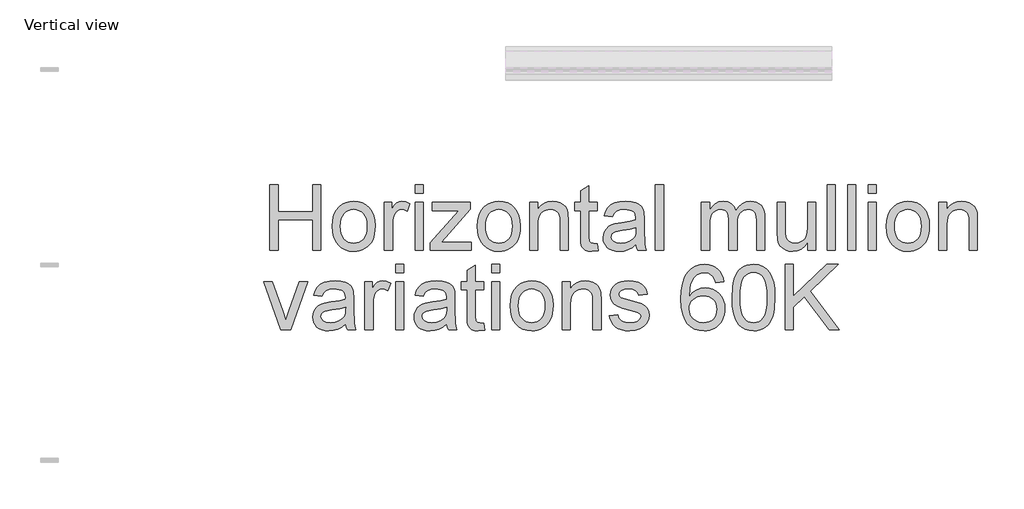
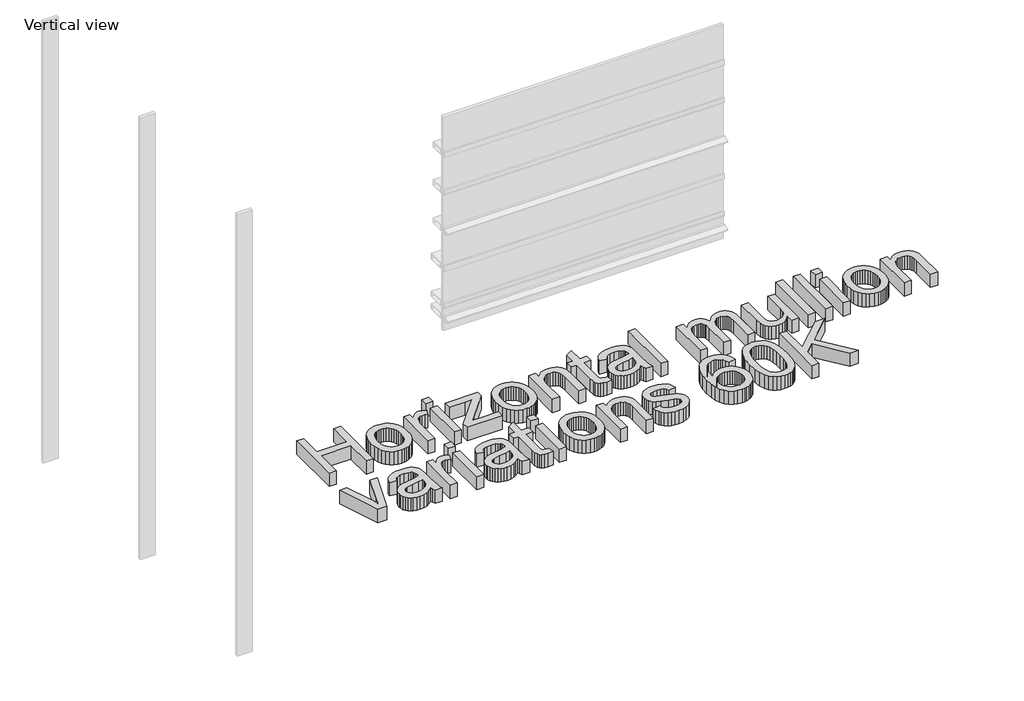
# One storey, part 6 of 8: 1 proxy.
"""IFC4 building model written with IfcOpenShell, lengths in millimetres."""

from ifc_helpers import new_model, si_unit, origin, origin_with_axes, place, context, project, spatial, polyline, outline, extrude, element, save

model = new_model("IFC4")

# Units and contexts
model_context = context("Model", 3, world=origin())
ifc_project = project(units=[si_unit("LENGTHUNIT", "METRE", prefix="MILLI")], contexts=[model_context])

# Site, building, storey
site = spatial("IfcSite", under=ifc_project)
building = spatial("IfcBuilding", under=site)
storey = spatial("IfcBuildingStorey", under=building, Name="Vertical view", Elevation=0.0)

# Proxy
placement = place(None, origin())
element("IfcBuildingElementProxy", 1, Name="600mm Arial", ObjectType="600mm Arial", at=placement, inside=storey, context=model_context, shape_type="SweptSolid", body=[
    extrude(outline(polyline([(1579.7688951, -5479.6499524), (1579.7688951, -4876.9120915), (1655.1111277, -4876.9120915), (1655.1111277, -5121.7743475), (1975.3156163, -5121.7743475), (1975.3156163, -4876.9120915), (2050.6578489, -4876.9120915), (2050.6578489, -5479.6499524), (1975.3156163, -5479.6499524), (1975.3156163, -5197.1165801), (1655.1111277, -5197.1165801), (1655.1111277, -5479.6499524), (1579.7688951, -5479.6499524)])), origin_with_axes(), (0.0, 0.0, 1.0), 150.0),
    extrude(outline(polyline([(2154.2534187, -5258.3321441), (2158.3277118, -5201.0069322), (2170.5505911, -5151.6095773), (2190.9220566, -5110.1400794), (2219.4421083, -5076.5984385), (2248.155298, -5055.1601152), (2279.8483319, -5039.8470272), (2314.5212099, -5030.6591744), (2352.1739321, -5027.5965567), (2393.7399991, -5031.3259605), (2431.3237434, -5042.5141717), (2464.9251651, -5061.1611903), (2494.5442643, -5087.2670164), (2518.7187099, -5119.9487331), (2535.986171, -5158.3234237), (2546.3466477, -5202.3910882), (2549.80014, -5252.1517266), (2548.2734297, -5292.4807903), (2543.6932988, -5328.2665114), (2536.0597474, -5359.5088898), (2525.3727755, -5386.2079256), (2511.7657402, -5409.2695282), (2495.3719988, -5429.599607), (2476.1915512, -5447.1981619), (2454.2243976, -5462.0651931), (2430.3258635, -5473.8788036), (2405.3512745, -5482.3170969), (2379.3006308, -5487.3800728), (2352.1739321, -5489.0677315), (2310.0008599, -5485.3521233), (2272.0676277, -5474.2052989), (2238.3742355, -5455.6272581), (2208.9206832, -5429.6180011), (2185.003755, -5396.6189861), (2167.9202349, -5357.0716716), (2157.6701228, -5310.9760576), (2154.2534187, -5258.3321441)]), holes=[polyline([(2229.5956514, -5258.1849913), (2231.7753522, -5294.729469), (2238.3144546, -5326.3719191), (2249.2129587, -5353.1123417), (2264.4708645, -5374.9507366), (2283.0305111, -5391.9146951), (2303.834238, -5404.0318083), (2326.882045, -5411.3020762), (2352.1739321, -5413.7254989), (2377.3370606, -5411.2882807), (2400.2928971, -5403.976626), (2421.0414416, -5391.7905349), (2439.5826942, -5374.7300074), (2454.8405999, -5352.6754818), (2465.7391041, -5325.5073964), (2472.2782065, -5293.2257514), (2474.4579073, -5255.8305466), (2472.2644109, -5220.4448971), (2465.6839218, -5189.6301815), (2454.7164398, -5163.3863997), (2439.361965, -5141.7135517), (2420.7517346, -5124.7495931), (2400.0169856, -5112.6324799), (2377.1577181, -5105.362212), (2352.1739321, -5102.9387894), (2326.882045, -5105.353015), (2303.834238, -5112.5956917), (2283.0305111, -5124.6668197), (2264.4708645, -5141.5663989), (2249.2129587, -5163.3404144), (2238.3144546, -5190.0348517), (2231.7753522, -5221.6497107), (2229.5956514, -5258.1849913)])]), origin_with_axes(), (0.0, 0.0, 1.0), 150.0),
    extrude(outline(polyline([(2634.5601516, -5479.6499524), (2634.5601516, -5037.0143358), (2700.4846052, -5037.0143358), (2700.4846052, -5102.497331), (2724.8383933, -5064.5319091), (2747.279195, -5042.1646838), (2769.7935731, -5031.2385885), (2794.3680903, -5027.5965567), (2831.8920539, -5033.4090923), (2870.0046286, -5050.8466988), (2844.8415001, -5118.3898332), (2818.3539964, -5106.8015503), (2791.8664928, -5102.9387894), (2769.3705088, -5106.6543975), (2749.2657577, -5117.801222), (2733.0237677, -5135.5331341), (2722.1160665, -5159.0040054), (2712.9558048, -5201.0897057), (2709.9023843, -5247.0013787), (2709.9023843, -5479.6499524), (2634.5601516, -5479.6499524)])), origin_with_axes(), (0.0, 0.0, 1.0), 150.0),
    extrude(outline(polyline([(2917.0935239, -5479.6499524), (2917.0935239, -5037.0143358), (2992.4357565, -5037.0143358), (2992.4357565, -5479.6499524), (2917.0935239, -5479.6499524)])), origin_with_axes(), (0.0, 0.0, 1.0), 150.0),
    extrude(outline(polyline([(2917.0935239, -4952.2543241), (2917.0935239, -4876.9120915), (2992.4357565, -4876.9120915), (2992.4357565, -4952.2543241), (2917.0935239, -4952.2543241)])), origin_with_axes(), (0.0, 0.0, 1.0), 150.0),
    extrude(outline(polyline([(3058.3602101, -5479.6499524), (3058.3602101, -5408.7223038), (3318.3792043, -5112.3565684), (3241.4182909, -5112.3565684), (3077.1957682, -5112.3565684), (3077.1957682, -5037.0143358), (3425.6535941, -5037.0143358), (3425.6535941, -5101.025803), (3195.0651595, -5363.9878531), (3159.748488, -5404.3077198), (3246.8629444, -5404.3077198), (3435.0713731, -5404.3077198), (3435.0713731, -5479.6499524), (3058.3602101, -5479.6499524)])), origin_with_axes(), (0.0, 0.0, 1.0), 150.0),
    extrude(outline(polyline([(3491.5780476, -5258.3321441), (3495.6523407, -5201.0069322), (3507.87522, -5151.6095773), (3528.2466855, -5110.1400794), (3556.7667372, -5076.5984385), (3585.4799269, -5055.1601152), (3617.1729608, -5039.8470272), (3651.8458388, -5030.6591744), (3689.498561, -5027.5965567), (3731.0646279, -5031.3259605), (3768.6483723, -5042.5141717), (3802.249794, -5061.1611903), (3831.8688931, -5087.2670164), (3856.0433388, -5119.9487331), (3873.3107999, -5158.3234237), (3883.6712766, -5202.3910882), (3887.1247688, -5252.1517266), (3885.5980585, -5292.4807903), (3881.0179277, -5328.2665114), (3873.3843763, -5359.5088898), (3862.6974043, -5386.2079256), (3849.090369, -5409.2695282), (3832.6966276, -5429.599607), (3813.5161801, -5447.1981619), (3791.5490265, -5462.0651931), (3767.6504924, -5473.8788036), (3742.6759034, -5482.3170969), (3716.6252596, -5487.3800728), (3689.498561, -5489.0677315), (3647.3254888, -5485.3521233), (3609.3922566, -5474.2052989), (3575.6988643, -5455.6272581), (3546.2453121, -5429.6180011), (3522.3283839, -5396.6189861), (3505.2448637, -5357.0716716), (3494.9947516, -5310.9760576), (3491.5780476, -5258.3321441)]), holes=[polyline([(3566.9202802, -5258.1849913), (3569.099981, -5294.729469), (3575.6390835, -5326.3719191), (3586.5375876, -5353.1123417), (3601.7954934, -5374.9507366), (3620.35514, -5391.9146951), (3641.1588668, -5404.0318083), (3664.2066738, -5411.3020762), (3689.498561, -5413.7254989), (3714.6616895, -5411.2882807), (3737.617526, -5403.976626), (3758.3660705, -5391.7905349), (3776.9073231, -5374.7300074), (3792.1652288, -5352.6754818), (3803.0637329, -5325.5073964), (3809.6028354, -5293.2257514), (3811.7825362, -5255.8305466), (3809.5890398, -5220.4448971), (3803.0085506, -5189.6301815), (3792.0410686, -5163.3863997), (3776.6865939, -5141.7135517), (3758.0763634, -5124.7495931), (3737.3416145, -5112.6324799), (3714.482347, -5105.362212), (3689.498561, -5102.9387894), (3664.2066738, -5105.353015), (3641.1588668, -5112.5956917), (3620.35514, -5124.6668197), (3601.7954934, -5141.5663989), (3586.5375876, -5163.3404144), (3575.6390835, -5190.0348517), (3569.099981, -5221.6497107), (3566.9202802, -5258.1849913)])]), origin_with_axes(), (0.0, 0.0, 1.0), 150.0),
    extrude(outline(polyline([(3971.8847805, -5479.6499524), (3971.8847805, -5037.0143358), (4047.2270131, -5037.0143358), (4047.2270131, -5098.818511), (4073.4018171, -5067.658906), (4104.8373336, -5045.4020453), (4141.5335626, -5032.0479289), (4183.4905041, -5027.5965567), (4220.6281915, -5031.1834062), (4254.638882, -5041.9439546), (4283.0025838, -5058.5354325), (4303.1993054, -5079.6150709), (4316.9029097, -5105.1276872), (4325.7872599, -5135.0180993), (4329.7603854, -5207.8587344), (4329.7603854, -5479.6499524), (4254.4181528, -5479.6499524), (4254.4181528, -5218.0122775), (4252.247649, -5179.0535742), (4245.7361377, -5151.3520599), (4233.7247906, -5131.5048263), (4215.0547793, -5116.1089648), (4191.1240555, -5106.2313332), (4163.3305708, -5102.9387894), (4140.4529092, -5104.7873964), (4119.2031255, -5110.3332175), (4099.5812196, -5119.5762526), (4081.5871915, -5132.5165018), (4066.5546134, -5150.625493), (4055.8170577, -5175.3747542), (4049.3745243, -5206.7642854), (4047.2270131, -5244.7940867), (4047.2270131, -5479.6499524), (3971.8847805, -5479.6499524)])), origin_with_axes(), (0.0, 0.0, 1.0), 150.0),
    extrude(outline(polyline([(4593.4581996, -5416.8157076), (4602.8759786, -5481.8572444), (4546.516457, -5489.0677315), (4510.3536568, -5485.9407345), (4483.3879066, -5476.5597437), (4464.3316193, -5462.1019813), (4451.8972078, -5443.7446697), (4445.0546027, -5412.2171827), (4442.7737343, -5358.248894), (4442.7737343, -5112.3565684), (4386.2670599, -5112.3565684), (4386.2670599, -5037.0143358), (4442.7737343, -5037.0143358), (4442.7737343, -4929.4456404), (4518.1159669, -4885.1526482), (4518.1159669, -5037.0143358), (4593.4581996, -5037.0143358), (4593.4581996, -5112.3565684), (4518.1159669, -5112.3565684), (4518.1159669, -5356.041602), (4522.0890925, -5394.8899407), (4534.9649623, -5408.6487274), (4545.8358753, -5412.456306), (4560.6431256, -5413.7254989), (4593.4581996, -5416.8157076)])), origin_with_axes(), (0.0, 0.0, 1.0), 150.0),
    extrude(outline(polyline([(4951.3338045, -5423.143278), (4915.3365512, -5454.0085774), (4878.2724402, -5474.2052989), (4839.2953428, -5485.3521233), (4797.5591305, -5489.0677315), (4764.012891, -5486.8328484), (4734.596127, -5480.128199), (4709.3088384, -5468.9537834), (4688.1510251, -5453.3096016), (4671.444584, -5434.1889349), (4659.5114118, -5412.5850647), (4652.3515085, -5388.4979911), (4649.964874, -5361.927714), (4653.5701176, -5330.6945326), (4664.3858482, -5302.3308307), (4681.0692967, -5278.0506191), (4702.2776937, -5259.0679081), (4727.2016989, -5244.7205103), (4755.0319718, -5234.346238), (4820.2206614, -5223.0154726), (4897.2551512, -5211.0960959), (4950.8923461, -5197.1165801), (4951.3338045, -5180.3411611), (4946.1466683, -5146.7167468), (4939.6627482, -5134.2639412), (4930.5852599, -5124.7174035), (4914.8950928, -5115.1892598), (4895.7836232, -5108.3834429), (4847.2967762, -5102.9387894), (4802.4151728, -5106.562427), (4771.0716268, -5117.43334), (4749.6976829, -5137.538091), (4734.7248857, -5168.8632429), (4659.3826531, -5159.4454638), (4672.460858, -5118.2426804), (4691.9769979, -5085.8690648), (4719.7520885, -5061.1106065), (4757.6071458, -5042.7532949), (4803.9050949, -5031.3857413), (4857.0088609, -5027.5965567), (4907.9421231, -5030.9442829), (4948.3171721, -5040.9874614), (4978.7594072, -5056.0890173), (4999.8942278, -5074.6118757), (5013.9105318, -5097.5125299), (5022.9972171, -5125.7474731), (5026.6760371, -5191.6719266), (5026.6760371, -5285.408259), (5030.5020098, -5416.3006729), (5036.1673926, -5448.6558943), (5045.5115952, -5479.6499524), (4970.1693626, -5479.6499524), (4958.1028332, -5453.4567544), (4951.3338045, -5423.143278)]), holes=[polyline([(4951.3338045, -5272.4588127), (4900.7132419, -5285.0035888), (4829.7855933, -5295.561802), (4764.9647857, -5307.7754843), (4748.0973962, -5316.1264056), (4735.6078025, -5327.641112), (4727.8822806, -5341.4366868), (4725.3071066, -5356.6302132), (4730.9173071, -5379.0342267), (4747.7479083, -5397.3915383), (4775.4310285, -5409.6420087), (4813.5987855, -5413.7254989), (4854.0658049, -5409.2189444), (4889.8239349, -5395.6992811), (4918.8130361, -5375.7784711), (4938.9729694, -5352.0684765), (4947.9125019, -5327.641112), (4950.8923461, -5293.7959685), (4951.3338045, -5272.4588127)])]), origin_with_axes(), (0.0, 0.0, 1.0), 150.0),
    extrude(outline(polyline([(5130.2716069, -5479.6499524), (5130.2716069, -4876.9120915), (5205.6138395, -4876.9120915), (5205.6138395, -5479.6499524), (5130.2716069, -5479.6499524)])), origin_with_axes(), (0.0, 0.0, 1.0), 150.0),
    extrude(outline(polyline([(5554.0716654, -5479.6499524), (5554.0716654, -5037.0143358), (5629.413898, -5037.0143358), (5629.413898, -5109.8549709), (5652.0754289, -5076.3961034), (5681.2116829, -5050.1845113), (5715.8293786, -5033.2435454), (5754.9352347, -5027.5965567), (5796.836994, -5033.35391), (5814.6700737, -5040.5506015), (5830.4246201, -5050.6259696), (5855.5141722, -5078.2723016), (5871.9217092, -5115.1524716), (5899.3841001, -5076.8467589), (5930.709252, -5049.4855355), (5965.8971649, -5033.0688014), (6004.9478387, -5027.5965567), (6035.1095637, -5029.8728266), (6061.5832718, -5036.7016361), (6084.3689629, -5048.0829854), (6103.466637, -5064.0168743), (6118.5635943, -5084.6872439), (6129.3471353, -5110.2780352), (6135.8172599, -5140.7892481), (6137.9739681, -5176.2208828), (6137.9739681, -5479.6499524), (6062.6317355, -5479.6499524), (6062.6317355, -5208.5944984), (6060.884296, -5171.0153526), (6055.6419776, -5145.6866772), (6045.8195283, -5128.3410411), (6030.3316963, -5114.7110132), (6010.4108863, -5105.8818453), (5987.2895029, -5102.9387894), (5965.9385516, -5104.8241846), (5946.4729955, -5110.4803703), (5928.8928347, -5119.9073464), (5913.1980691, -5133.105113), (5900.2900095, -5150.4599461), (5891.069967, -5172.3581218), (5885.5379415, -5198.7996403), (5883.693933, -5229.7845013), (5883.693933, -5479.6499524), (5808.3517004, -5479.6499524), (5808.3517004, -5200.2067889), (5803.9922988, -5157.6060538), (5798.5430467, -5140.8858172), (5790.9140939, -5127.219001), (5780.8019375, -5116.5964084), (5767.9030751, -5109.0088423), (5752.2175065, -5104.4563026), (5733.7452318, -5102.9387894), (5704.7193424, -5106.9854913), (5677.9743213, -5119.1255971), (5655.9014016, -5139.0648013), (5640.8918162, -5166.5087981), (5632.2833775, -5204.5845846), (5629.413898, -5256.4191577), (5629.413898, -5479.6499524), (5554.0716654, -5479.6499524)])), origin_with_axes(), (0.0, 0.0, 1.0), 150.0),
    extrude(outline(polyline([(6533.5206893, -5479.6499524), (6533.5206893, -5403.5719558), (6506.2606335, -5440.9763577), (6474.5124173, -5467.6937876), (6438.2760408, -5483.7242455), (6397.5515039, -5489.0677315), (6360.8552749, -5485.3153351), (6326.6974316, -5474.0581461), (6298.0394242, -5457.1355743), (6277.8427027, -5436.3870298), (6264.249463, -5411.1871131), (6255.401901, -5380.9104249), (6250.987317, -5310.865693), (6250.987317, -5037.0143358), (6326.3295496, -5037.0143358), (6326.3295496, -5275.4018687), (6327.4699838, -5323.0793753), (6330.8912864, -5352.2156293), (6341.8725639, -5377.8386103), (6360.689728, -5397.3179619), (6386.0919798, -5409.6236146), (6416.8285205, -5413.7254989), (6449.3308947, -5409.5316441), (6479.7363416, -5396.9500799), (6504.8074996, -5377.1396345), (6521.3070071, -5351.2591361), (6530.4672688, -5315.8137059), (6533.5206893, -5267.3084648), (6533.5206893, -5037.0143358), (6608.8629219, -5037.0143358), (6608.8629219, -5479.6499524), (6533.5206893, -5479.6499524)])), origin_with_axes(), (0.0, 0.0, 1.0), 150.0),
    extrude(outline(polyline([(6712.4584918, -5479.6499524), (6712.4584918, -4876.9120915), (6787.8007244, -4876.9120915), (6787.8007244, -5479.6499524), (6712.4584918, -5479.6499524)])), origin_with_axes(), (0.0, 0.0, 1.0), 150.0),
    extrude(outline(polyline([(6900.8140733, -5479.6499524), (6900.8140733, -4876.9120915), (6976.1563059, -4876.9120915), (6976.1563059, -5479.6499524), (6900.8140733, -5479.6499524)])), origin_with_axes(), (0.0, 0.0, 1.0), 150.0),
    extrude(outline(polyline([(7089.1696548, -5479.6499524), (7089.1696548, -5037.0143358), (7164.5118874, -5037.0143358), (7164.5118874, -5479.6499524), (7089.1696548, -5479.6499524)])), origin_with_axes(), (0.0, 0.0, 1.0), 150.0),
    extrude(outline(polyline([(7089.1696548, -4952.2543241), (7089.1696548, -4876.9120915), (7164.5118874, -4876.9120915), (7164.5118874, -4952.2543241), (7089.1696548, -4952.2543241)])), origin_with_axes(), (0.0, 0.0, 1.0), 150.0),
    extrude(outline(polyline([(7258.6896782, -5258.3321441), (7262.7639713, -5201.0069322), (7274.9868506, -5151.6095773), (7295.3583161, -5110.1400794), (7323.8783678, -5076.5984385), (7352.5915575, -5055.1601152), (7384.2845914, -5039.8470272), (7418.9574694, -5030.6591744), (7456.6101916, -5027.5965567), (7498.1762586, -5031.3259605), (7535.7600029, -5042.5141717), (7569.3614246, -5061.1611903), (7598.9805238, -5087.2670164), (7623.1549694, -5119.9487331), (7640.4224305, -5158.3234237), (7650.7829072, -5202.3910882), (7654.2363994, -5252.1517266), (7652.7096891, -5292.4807903), (7648.1295583, -5328.2665114), (7640.4960069, -5359.5088898), (7629.8090349, -5386.2079256), (7616.2019997, -5409.2695282), (7599.8082582, -5429.599607), (7580.6278107, -5447.1981619), (7558.6606571, -5462.0651931), (7534.762123, -5473.8788036), (7509.787534, -5482.3170969), (7483.7368902, -5487.3800728), (7456.6101916, -5489.0677315), (7414.4371194, -5485.3521233), (7376.5038872, -5474.2052989), (7342.8104949, -5455.6272581), (7313.3569427, -5429.6180011), (7289.4400145, -5396.6189861), (7272.3564943, -5357.0716716), (7262.1063822, -5310.9760576), (7258.6896782, -5258.3321441)]), holes=[polyline([(7334.0319108, -5258.1849913), (7336.2116116, -5294.729469), (7342.7507141, -5326.3719191), (7353.6492182, -5353.1123417), (7368.907124, -5374.9507366), (7387.4667706, -5391.9146951), (7408.2704975, -5404.0318083), (7431.3183045, -5411.3020762), (7456.6101916, -5413.7254989), (7481.7733201, -5411.2882807), (7504.7291566, -5403.976626), (7525.4777011, -5391.7905349), (7544.0189537, -5374.7300074), (7559.2768594, -5352.6754818), (7570.1753635, -5325.5073964), (7576.714466, -5293.2257514), (7578.8941668, -5255.8305466), (7576.7006704, -5220.4448971), (7570.1201812, -5189.6301815), (7559.1526993, -5163.3863997), (7543.7982245, -5141.7135517), (7525.187994, -5124.7495931), (7504.4532451, -5112.6324799), (7481.5939776, -5105.362212), (7456.6101916, -5102.9387894), (7431.3183045, -5105.353015), (7408.2704975, -5112.5956917), (7387.4667706, -5124.6668197), (7368.907124, -5141.5663989), (7353.6492182, -5163.3404144), (7342.7507141, -5190.0348517), (7336.2116116, -5221.6497107), (7334.0319108, -5258.1849913)])]), origin_with_axes(), (0.0, 0.0, 1.0), 150.0),
    extrude(outline(polyline([(7738.9964111, -5479.6499524), (7738.9964111, -5037.0143358), (7814.3386437, -5037.0143358), (7814.3386437, -5098.818511), (7840.5134477, -5067.658906), (7871.9489642, -5045.4020453), (7908.6451932, -5032.0479289), (7950.6021347, -5027.5965567), (7987.7398222, -5031.1834062), (8021.7505126, -5041.9439546), (8050.1142144, -5058.5354325), (8070.310936, -5079.6150709), (8084.0145403, -5105.1276872), (8092.8988905, -5135.0180993), (8096.872016, -5207.8587344), (8096.872016, -5479.6499524), (8021.5297834, -5479.6499524), (8021.5297834, -5218.0122775), (8019.3592796, -5179.0535742), (8012.8477683, -5151.3520599), (8000.8364212, -5131.5048263), (7982.1664099, -5116.1089648), (7958.2356861, -5106.2313332), (7930.4422014, -5102.9387894), (7907.5645398, -5104.7873964), (7886.3147561, -5110.3332175), (7866.6928502, -5119.5762526), (7848.6988221, -5132.5165018), (7833.6662441, -5150.625493), (7822.9286883, -5175.3747542), (7816.4861549, -5206.7642854), (7814.3386437, -5244.7940867), (7814.3386437, -5479.6499524), (7738.9964111, -5479.6499524)])), origin_with_axes(), (0.0, 0.0, 1.0), 150.0),
    extrude(outline(polyline([(1678.949881, -6211.4988595), (1523.2622206, -5768.8632429), (1603.0190372, -5768.8632429), (1697.3439807, -6034.032585), (1725.7444708, -6123.2071806), (1753.5563496, -6039.0357802), (1848.4699043, -5768.8632429), (1928.2267209, -5768.8632429), (1774.4520469, -6211.4988595), (1678.949881, -6211.4988595)])), origin_with_axes(), (0.0, 0.0, 1.0), 150.0),
    extrude(outline(polyline([(2276.6845467, -6154.992185), (2240.6872935, -6185.8574844), (2203.6231825, -6206.054206), (2164.6460851, -6217.2010304), (2122.9098727, -6220.9166386), (2089.3636333, -6218.6817554), (2059.9468693, -6211.9771061), (2034.6595806, -6200.8026905), (2013.5017674, -6185.1585086), (1996.7953263, -6166.0378419), (1984.8621541, -6144.4339718), (1977.7022507, -6120.3468981), (1975.3156163, -6093.776621), (1978.9208598, -6062.5434396), (1989.7365905, -6034.1797378), (2006.420039, -6009.8995261), (2027.628436, -5990.9168152), (2052.5524412, -5976.5694174), (2080.3827141, -5966.1951451), (2145.5714037, -5954.8643797), (2222.6058934, -5942.945003), (2276.2430883, -5928.9654872), (2276.6845467, -5912.1900682), (2271.4974106, -5878.5656539), (2265.0134904, -5866.1128483), (2255.9360022, -5856.5663105), (2240.2458351, -5847.0381669), (2221.1343655, -5840.23235), (2172.6475185, -5834.7876964), (2127.7659151, -5838.4113341), (2096.4223691, -5849.282247), (2075.0484252, -5869.3869981), (2060.075628, -5900.71215), (1984.7333954, -5891.2943709), (1997.8116003, -5850.0915874), (2017.3277401, -5817.7179719), (2045.1028308, -5792.9595136), (2082.9578881, -5774.602202), (2129.2558372, -5763.2346484), (2182.3596032, -5759.4454638), (2233.2928654, -5762.79319), (2273.6679144, -5772.8363684), (2304.1101495, -5787.9379243), (2325.2449701, -5806.4607828), (2339.2612741, -5829.361437), (2348.3479594, -5857.5963801), (2352.0267793, -5923.5208337), (2352.0267793, -6017.257166), (2355.8527521, -6148.1495799), (2361.5181348, -6180.5048014), (2370.8623375, -6211.4988595), (2295.5201049, -6211.4988595), (2283.4535754, -6185.3056614), (2276.6845467, -6154.992185)]), holes=[polyline([(2276.6845467, -6004.3077198), (2226.0639842, -6016.8524958), (2155.1363355, -6027.4107091), (2090.315528, -6039.6243913), (2073.4481385, -6047.9753126), (2060.9585448, -6059.4900191), (2053.2330229, -6073.2855939), (2050.6578489, -6088.4791203), (2056.2680493, -6110.8831338), (2073.0986506, -6129.2404454), (2100.7817707, -6141.4909158), (2138.9495277, -6145.574406), (2179.4165472, -6141.0678515), (2215.1746771, -6127.5481882), (2244.1637784, -6107.6273782), (2264.3237117, -6083.9173836), (2273.2632442, -6059.4900191), (2276.2430883, -6025.6448755), (2276.6845467, -6004.3077198)])]), origin_with_axes(), (0.0, 0.0, 1.0), 150.0),
    extrude(outline(polyline([(2455.6223492, -6211.4988595), (2455.6223492, -5768.8632429), (2521.5468027, -5768.8632429), (2521.5468027, -5834.346238), (2545.9005908, -5796.3808161), (2568.3413925, -5774.0135908), (2590.8557706, -5763.0874956), (2615.4302879, -5759.4454638), (2652.9542514, -5765.2579993), (2691.0668261, -5782.6956059), (2665.9036976, -5850.2387402), (2639.416194, -5838.6504574), (2612.9286903, -5834.7876964), (2590.4327063, -5838.5033046), (2570.3279553, -5849.650129), (2554.0859652, -5867.3820412), (2543.178264, -5890.8529125), (2534.0180024, -5932.9386127), (2530.9645818, -5978.8502857), (2530.9645818, -6211.4988595), (2455.6223492, -6211.4988595)])), origin_with_axes(), (0.0, 0.0, 1.0), 150.0),
    extrude(outline(polyline([(2738.1557215, -6211.4988595), (2738.1557215, -5768.8632429), (2813.4979541, -5768.8632429), (2813.4979541, -6211.4988595), (2738.1557215, -6211.4988595)])), origin_with_axes(), (0.0, 0.0, 1.0), 150.0),
    extrude(outline(polyline([(2738.1557215, -5684.1032312), (2738.1557215, -5608.7609986), (2813.4979541, -5608.7609986), (2813.4979541, -5684.1032312), (2738.1557215, -5684.1032312)])), origin_with_axes(), (0.0, 0.0, 1.0), 150.0),
    extrude(outline(polyline([(3209.0446753, -6154.992185), (3173.0474221, -6185.8574844), (3135.9833111, -6206.054206), (3097.0062137, -6217.2010304), (3055.2700013, -6220.9166386), (3021.7237619, -6218.6817554), (2992.3069979, -6211.9771061), (2967.0197092, -6200.8026905), (2945.861896, -6185.1585086), (2929.1554549, -6166.0378419), (2917.2222826, -6144.4339718), (2910.0623793, -6120.3468981), (2907.6757449, -6093.776621), (2911.2809884, -6062.5434396), (2922.0967191, -6034.1797378), (2938.7801676, -6009.8995261), (2959.9885646, -5990.9168152), (2984.9125697, -5976.5694174), (3012.7428427, -5966.1951451), (3077.9315322, -5954.8643797), (3154.966022, -5942.945003), (3208.6032169, -5928.9654872), (3209.0446753, -5912.1900682), (3203.8575392, -5878.5656539), (3197.373619, -5866.1128483), (3188.2961308, -5856.5663105), (3172.6059637, -5847.0381669), (3153.494494, -5840.23235), (3105.0076471, -5834.7876964), (3060.1260437, -5838.4113341), (3028.7824977, -5849.282247), (3007.4085538, -5869.3869981), (2992.4357565, -5900.71215), (2917.0935239, -5891.2943709), (2930.1717289, -5850.0915874), (2949.6878687, -5817.7179719), (2977.4629593, -5792.9595136), (3015.3180166, -5774.602202), (3061.6159657, -5763.2346484), (3114.7197317, -5759.4454638), (3165.652994, -5762.79319), (3206.0280429, -5772.8363684), (3236.470278, -5787.9379243), (3257.6050987, -5806.4607828), (3271.6214027, -5829.361437), (3280.708088, -5857.5963801), (3284.3869079, -5923.5208337), (3284.3869079, -6017.257166), (3288.2128807, -6148.1495799), (3293.8782634, -6180.5048014), (3303.2224661, -6211.4988595), (3227.8802335, -6211.4988595), (3215.813704, -6185.3056614), (3209.0446753, -6154.992185)]), holes=[polyline([(3209.0446753, -6004.3077198), (3158.4241128, -6016.8524958), (3087.4964641, -6027.4107091), (3022.6756566, -6039.6243913), (3005.8082671, -6047.9753126), (2993.3186733, -6059.4900191), (2985.5931514, -6073.2855939), (2983.0179775, -6088.4791203), (2988.6281779, -6110.8831338), (3005.4587792, -6129.2404454), (3033.1418993, -6141.4909158), (3071.3096563, -6145.574406), (3111.7766758, -6141.0678515), (3147.5348057, -6127.5481882), (3176.5239069, -6107.6273782), (3196.6838403, -6083.9173836), (3205.6233728, -6059.4900191), (3208.6032169, -6025.6448755), (3209.0446753, -6004.3077198)])]), origin_with_axes(), (0.0, 0.0, 1.0), 150.0),
    extrude(outline(polyline([(3548.0847221, -6148.6646147), (3557.5025011, -6213.7061515), (3501.1429795, -6220.9166386), (3464.9801794, -6217.7896416), (3438.0144291, -6208.4086507), (3418.9581418, -6193.9508883), (3406.5237303, -6175.5935768), (3399.6811252, -6144.0660898), (3397.4002568, -6090.0978011), (3397.4002568, -5844.2054755), (3340.8935824, -5844.2054755), (3340.8935824, -5768.8632429), (3397.4002568, -5768.8632429), (3397.4002568, -5661.2945475), (3472.7424895, -5617.0015553), (3472.7424895, -5768.8632429), (3548.0847221, -5768.8632429), (3548.0847221, -5844.2054755), (3472.7424895, -5844.2054755), (3472.7424895, -6087.8905091), (3476.715615, -6126.7388478), (3489.5914848, -6140.4976344), (3500.4623978, -6144.3052131), (3515.2696481, -6145.574406), (3548.0847221, -6148.6646147)])), origin_with_axes(), (0.0, 0.0, 1.0), 150.0),
    extrude(outline(polyline([(3623.4269547, -6211.4988595), (3623.4269547, -5768.8632429), (3698.7691873, -5768.8632429), (3698.7691873, -6211.4988595), (3623.4269547, -6211.4988595)])), origin_with_axes(), (0.0, 0.0, 1.0), 150.0),
    extrude(outline(polyline([(3623.4269547, -5684.1032312), (3623.4269547, -5608.7609986), (3698.7691873, -5608.7609986), (3698.7691873, -5684.1032312), (3623.4269547, -5684.1032312)])), origin_with_axes(), (0.0, 0.0, 1.0), 150.0),
    extrude(outline(polyline([(3792.9469781, -5990.1810512), (3797.0212712, -5932.8558393), (3809.2441504, -5883.4584844), (3829.6156159, -5841.9889865), (3858.1356676, -5808.4473456), (3886.8488573, -5787.0090223), (3918.5418912, -5771.6959343), (3953.2147693, -5762.5080814), (3990.8674915, -5759.4454638), (4032.4335584, -5763.1748675), (4070.0173027, -5774.3630787), (4103.6187245, -5793.0100974), (4133.2378236, -5819.1159234), (4157.4122692, -5851.7976402), (4174.6797303, -5890.1723308), (4185.040207, -5934.2399953), (4188.4936993, -5984.0006337), (4186.966989, -6024.3296974), (4182.3868581, -6060.1154185), (4174.7533067, -6091.3577969), (4164.0663348, -6118.0568327), (4150.4592995, -6141.1184353), (4134.0655581, -6161.448514), (4114.8851106, -6179.047069), (4092.9179569, -6193.9141001), (4069.0194228, -6205.7277107), (4044.0448339, -6214.166004), (4017.9941901, -6219.2289799), (3990.8674915, -6220.9166386), (3948.6944192, -6217.2010304), (3910.761187, -6206.054206), (3877.0677948, -6187.4761652), (3847.6142425, -6161.4669081), (3823.6973143, -6128.4678932), (3806.6137942, -6088.9205787), (3796.3636821, -6042.8249647), (3792.9469781, -5990.1810512)]), holes=[polyline([(3868.2892107, -5990.0338984), (3870.4689115, -6026.5783761), (3877.008014, -6058.2208262), (3887.9065181, -6084.9612487), (3903.1644238, -6106.7996437), (3921.7240705, -6123.7636022), (3942.5277973, -6135.8807154), (3965.5756043, -6143.1509833), (3990.8674915, -6145.574406), (4016.0306199, -6143.1371877), (4038.9864564, -6135.8255331), (4059.735001, -6123.639442), (4078.2762535, -6106.5789145), (4093.5341593, -6084.5243889), (4104.4326634, -6057.3563035), (4110.9717658, -6025.0746584), (4113.1514667, -5987.6794536), (4110.9579703, -5952.2938042), (4104.3774811, -5921.4790886), (4093.4099991, -5895.2353068), (4078.0555243, -5873.5624587), (4059.4452939, -5856.5985002), (4038.7105449, -5844.481387), (4015.8512775, -5837.2111191), (3990.8674915, -5834.7876964), (3965.5756043, -5837.201922), (3942.5277973, -5844.4445988), (3921.7240705, -5856.5157268), (3903.1644238, -5873.4153059), (3887.9065181, -5895.1893215), (3877.008014, -5921.8837588), (3870.4689115, -5953.4986177), (3868.2892107, -5990.0338984)])]), origin_with_axes(), (0.0, 0.0, 1.0), 150.0),
    extrude(outline(polyline([(4273.253711, -6211.4988595), (4273.253711, -5768.8632429), (4348.5959436, -5768.8632429), (4348.5959436, -5830.6674181), (4374.7707475, -5799.5078131), (4406.206264, -5777.2509524), (4442.902493, -5763.896836), (4484.8594346, -5759.4454638), (4521.997122, -5763.0323133), (4556.0078124, -5773.7928616), (4584.3715143, -5790.3843396), (4604.5682358, -5811.4639779), (4618.2718401, -5836.9765943), (4627.1561903, -5866.8670064), (4631.1293159, -5939.7076415), (4631.1293159, -6211.4988595), (4555.7870833, -6211.4988595), (4555.7870833, -5949.8611845), (4553.6165795, -5910.9024812), (4547.1050682, -5883.200967), (4535.093721, -5863.3537334), (4516.4237098, -5847.9578719), (4492.492986, -5838.0802403), (4464.6995012, -5834.7876964), (4441.8218397, -5836.6363035), (4420.5720559, -5842.1821245), (4400.95015, -5851.4251597), (4382.9561219, -5864.3654088), (4367.9235439, -5882.4744001), (4357.1859882, -5907.2236613), (4350.7434547, -5938.6131925), (4348.5959436, -5976.6429938), (4348.5959436, -6211.4988595), (4273.253711, -6211.4988595)])), origin_with_axes(), (0.0, 0.0, 1.0), 150.0),
    extrude(outline(polyline([(4706.4715485, -6079.6499524), (4781.8137811, -6070.2321733), (4786.3663208, -6087.4122625), (4793.6963695, -6102.4586361), (4803.8039274, -6115.3712942), (4816.6889942, -6126.1502366), (4832.3883584, -6134.6483107), (4850.938808, -6140.7183636), (4896.5929636, -6145.574406), (4941.6952962, -6141.1230338), (4959.2248733, -6135.5588186), (4973.4067242, -6127.7689174), (4992.1687059, -6108.4183244), (4996.8592014, -6097.5841997), (4998.4226998, -6085.9775227), (4996.8500043, -6075.8055856), (4992.1319177, -6066.7740826), (4973.2595714, -6052.1323792), (4945.0430223, -6042.5674473), (4895.7100468, -6030.6480707), (4826.9529019, -6010.7640488), (4782.2552395, -5993.7862947), (4753.5420498, -5975.2634363), (4732.7383229, -5950.7441013), (4720.1015764, -5921.7917883), (4715.8893276, -5889.9699957), (4719.2738419, -5860.7785594), (4729.427385, -5833.8312032), (4745.4302518, -5810.1947851), (4766.3627373, -5790.9361626), (4787.1664641, -5778.8144509), (4814.2609731, -5768.6425137), (4845.586125, -5761.7447263), (4879.0817806, -5759.4454638), (4928.1204506, -5763.1426779), (4970.7579738, -5774.23432), (5005.0445758, -5791.6351384), (5029.0304818, -5814.2598811), (5044.922984, -5843.7824112), (5054.9293743, -5881.8765918), (4979.5871417, -5891.2943709), (4970.0773921, -5867.5843763), (4951.2602281, -5849.7237054), (4922.9517085, -5838.5216987), (4884.9678925, -5834.7876964), (4841.7049699, -5838.3561518), (4812.8630215, -5849.0615178), (4796.6394255, -5864.5125616), (4791.2315602, -5882.3180502), (4793.4756403, -5893.9063331), (4800.2078808, -5904.2438171), (4811.7225873, -5913.4776552), (4828.3140653, -5920.8720833), (4893.2084492, -5936.9117383), (5003.793777, -5972.3755626), (5033.0036074, -5989.3349226), (5055.1501035, -6012.5482765), (5069.1112252, -6042.0892007), (5073.7649325, -6078.0312716), (5068.3018848, -6115.1873532), (5051.9127419, -6150.1361427), (5025.2229032, -6180.1369194), (4988.857768, -6202.4489624), (4944.9326578, -6216.2997195), (4895.562894, -6220.9166386), (4855.0131011, -6218.6909525), (4819.595262, -6212.0138943), (4789.3093767, -6200.8854639), (4764.1554453, -6185.3056614), (4743.6092359, -6165.3480632), (4727.1465166, -6141.0862456), (4714.7672875, -6112.5202087), (4706.4715485, -6079.6499524)])), origin_with_axes(), (0.0, 0.0, 1.0), 150.0),
    extrude(outline(polyline([(5761.262805, -5768.8632429), (5685.9205724, -5778.281022), (5673.7804666, -5740.9409995), (5657.3729296, -5715.4467772), (5641.1769248, -5701.7339758), (5623.1966923, -5691.9391177), (5603.4322321, -5686.0622028), (5581.8835442, -5684.1032312), (5546.8611783, -5688.6649679), (5513.8989515, -5702.3501782), (5485.590432, -5731.1737325), (5462.4690486, -5770.8498057), (5453.4329471, -5796.1554884), (5446.8524579, -5826.970204), (5441.0583164, -5905.1267339), (5471.2798223, -5869.8652447), (5507.4978048, -5845.0148159), (5547.6889127, -5830.281142), (5589.8297953, -5825.3699174), (5626.0293836, -5828.7268406), (5659.4330688, -5838.7976102), (5690.0408508, -5855.5822262), (5717.8527296, -5879.0806887), (5740.964916, -5907.8950459), (5757.4736205, -5940.6273464), (5767.3788432, -5977.2775902), (5770.6805841, -6017.8457772), (5769.1262827, -6045.3127667), (5764.4633784, -6071.7956718), (5756.6918713, -6097.2944926), (5745.8117613, -6121.8092291), (5732.2093245, -6144.4247747), (5716.270837, -6164.2260231), (5697.9962989, -6181.2129742), (5677.3857101, -6195.3856281), (5654.8805291, -6206.5554452), (5630.9222142, -6214.533886), (5605.5107653, -6219.3209504), (5578.6461826, -6220.9166386), (5533.7323896, -6216.6859956), (5493.1688011, -6203.9940668), (5456.9554172, -6182.8408521), (5425.0922379, -6153.2263515), (5399.1151705, -6113.8997662), (5380.5601223, -6063.6102974), (5369.4270935, -6002.3579452), (5365.7160838, -5930.1427096), (5369.8363622, -5849.1810795), (5382.1971972, -5780.0836437), (5402.7985889, -5722.8504023), (5416.1894936, -5698.6828545), (5431.6405374, -5677.4813553), (5462.9013099, -5647.4161992), (5499.1468835, -5625.9410878), (5540.3772581, -5613.0560209), (5586.5924337, -5608.7609986), (5621.2929029, -5611.418946), (5652.7008283, -5619.3927883), (5680.8162098, -5632.6825253), (5705.6390474, -5651.2881572), (5726.4979565, -5674.5842846), (5742.7215525, -5701.945508), (5754.3098353, -5733.3718274), (5761.262805, -5768.8632429)]), holes=[polyline([(5441.0583164, -6016.6685548), (5445.4177181, -6050.0538459), (5458.495923, -6081.9308208), (5478.8030092, -6109.3380294), (5504.8490544, -6129.3140218), (5536.2845709, -6141.5093099), (5572.7600707, -6145.574406), (5598.9486703, -6143.4682815), (5622.4793224, -6137.1499083), (5643.3520271, -6126.6192862), (5661.5667844, -6111.8764152), (5676.341845, -6093.5191036), (5686.8954597, -6072.1451597), (5693.2276286, -6047.7545834), (5695.3383515, -6020.3473748), (5693.2552197, -5994.0116225), (5687.0058243, -5970.6281232), (5676.5901653, -5950.1968768), (5662.0082427, -5932.7178835), (5643.7383032, -5918.7153751), (5622.2585932, -5908.7135834), (5597.5691128, -5902.7125083), (5569.669862, -5900.71215), (5543.8307503, -5902.7125083), (5520.0241867, -5908.7135834), (5498.2501711, -5918.7153751), (5478.5087036, -5932.7178835), (5462.1241592, -5949.9669506), (5450.4209132, -5969.7084182), (5443.3989656, -5991.9422862), (5441.0583164, -6016.6685548)])]), origin_with_axes(), (0.0, 0.0, 1.0), 150.0),
    extrude(outline(polyline([(5836.6050377, -5914.9859714), (5842.1416617, -5818.5089181), (5849.0624417, -5777.5958418), (5858.7515338, -5741.5663989), (5871.1675511, -5710.1262838), (5886.269107, -5682.9811911), (5904.0562015, -5660.1311207), (5924.5288345, -5641.5760726), (5947.755984, -5627.2194777), (5973.8066278, -5616.9647671), (6002.6807659, -5610.8119407), (6034.3783983, -5608.7609986), (6080.8051061, -5613.6170409), (6122.3757715, -5628.1851679), (6157.1406201, -5651.8951625), (6183.1498771, -5684.1768076), (6202.7947757, -5724.7541917), (6218.4665487, -5773.3514032), (6228.7304563, -5835.0636079), (6232.1517589, -5914.9859714), (6226.6703171, -6010.9112016), (6219.818515, -6051.6863223), (6210.225992, -6087.6697799), (6197.9065436, -6119.1236905), (6182.8739656, -6146.3101699), (6165.1282579, -6169.2292182), (6144.6694204, -6187.8808354), (6121.4146798, -6202.3339993), (6095.2812626, -6212.6576878), (6066.2691687, -6218.8519009), (6034.3783983, -6220.9166386), (5992.8813092, -6217.3297891), (5956.0931097, -6206.5692408), (5924.0137997, -6188.6349935), (5896.6433793, -6163.5270473), (5870.3766048, -6118.1396062), (5851.6146231, -6061.5869465), (5840.357434, -5993.8690682), (5836.6050377, -5914.9859714)]), holes=[polyline([(5911.9472703, -5914.8388186), (5914.1545622, -5980.3356093), (5920.7764382, -6033.3520033), (5931.812898, -6073.8880007), (5947.2639418, -6101.9436013), (5965.9523472, -6121.0320784), (5986.7008917, -6134.6667048), (6009.5095754, -6142.8474807), (6034.3783983, -6145.574406), (6059.2472211, -6142.8382836), (6082.0559048, -6134.6299166), (6102.8044494, -6120.9493049), (6121.4928547, -6101.7964485), (6136.9438985, -6073.6948626), (6147.9803584, -6033.1680623), (6154.6022343, -5980.2160476), (6156.8095263, -5914.8388186), (6154.6758107, -5851.0756718), (6148.274664, -5798.9927783), (6137.6060861, -5758.5901382), (6122.6700771, -5729.8677514), (6104.2943715, -5709.8457738), (6083.3067036, -5695.5443613), (6059.7070736, -5686.9635137), (6033.4954815, -5684.1032312), (6008.7554173, -5686.6232229), (5986.3330097, -5694.1831979), (5966.2282587, -5706.7831562), (5948.4411642, -5724.4230979), (5932.4750856, -5755.6930675), (5921.0707438, -5797.8523441), (5914.2281386, -5850.9009278), (5911.9472703, -5914.8388186)])]), origin_with_axes(), (0.0, 0.0, 1.0), 150.0),
    extrude(outline(polyline([(6326.3295496, -6211.4988595), (6326.3295496, -5608.7609986), (6401.6717823, -5608.7609986), (6401.6717823, -5903.8023587), (6710.6926582, -5608.7609986), (6816.0540616, -5608.7609986), (6556.6236786, -5856.5663105), (6825.4718407, -6211.4988595), (6733.3541891, -6211.4988595), (6503.2072129, -5907.4811787), (6401.6717823, -6004.3077198), (6401.6717823, -6211.4988595), (6326.3295496, -6211.4988595)])), origin_with_axes(), (0.0, 0.0, 1.0), 150.0),
])

save(model, "model.ifc")
